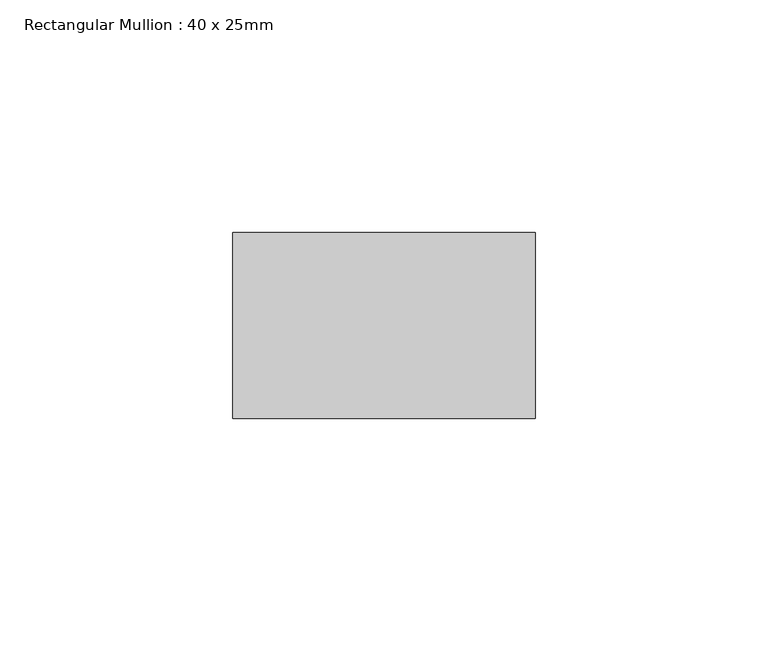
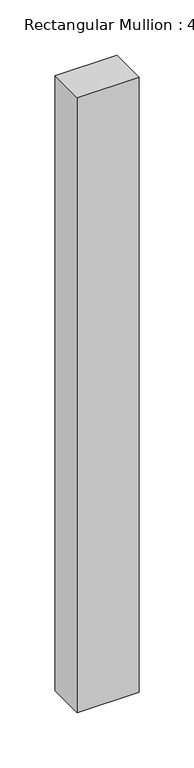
"""IFC4 building model written with IfcOpenShell, lengths in millimetres: member geometry, Rectangular Mullion : 40 x 25mm."""

from ifc_helpers import new_model, si_unit, frame, origin, place, context, project, spatial, polyline, outline, extrude, source, transform, mapped, element, save


def rectangular_mullion_40_x_25mm_783a125d(model_context):
    return source(origin(), model_context, "Body", "SweptSolid", [
        extrude(outline(polyline([(0.0, -20.0), (0.0, -60.0), (-65.0, -60.0), (-65.0, -20.0), (0.0, -20.0)])), frame((0.0, 0.0, -680.8423071), z_axis=(0.0, 0.0, 1.0), x_axis=(1.0, 0.0, 0.0)), (0.0, 0.0, 1.0), 680.8423071),
    ])


if __name__ == "__main__":
    model = new_model("IFC4")
    model_context = context("Model", 3, world=origin())
    ifc_project = project(units=[si_unit("LENGTHUNIT", "METRE", prefix="MILLI")], contexts=[model_context])
    site = spatial("IfcSite", under=ifc_project)
    building = spatial("IfcBuilding", under=site)
    placement = place(None, origin())
    rectangular_mullion_40_x_25mm_shape = rectangular_mullion_40_x_25mm_783a125d(model_context)
    element("IfcMember", 1, ObjectType="Rectangular Mullion : 40 x 25mm", at=placement, inside=building, context=model_context, shape_type="MappedRepresentation", body=[
        mapped(rectangular_mullion_40_x_25mm_shape, transform((0.0, 0.0, 0.0), x_axis=(1.0, 0.0, 0.0), y_axis=(0.0, 1.0, 0.0), z_axis=(0.0, 0.0, 1.0))),
    ])
    save(model, "model.ifc")
